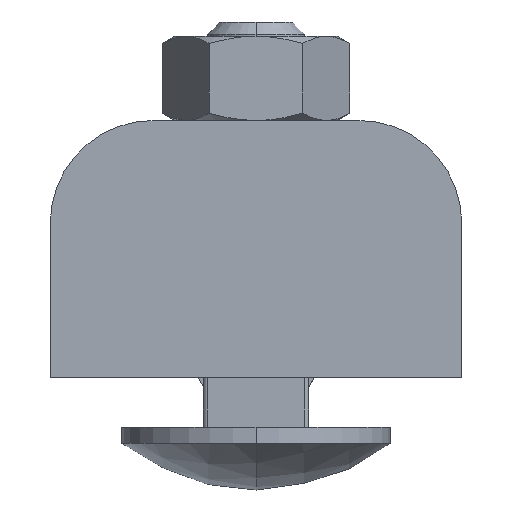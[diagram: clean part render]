
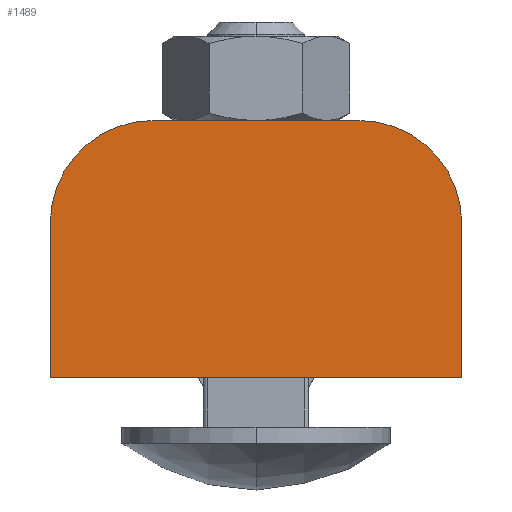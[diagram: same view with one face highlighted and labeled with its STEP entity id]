
A CAD part, front view. The second image highlights one B-rep face of the part: STEP entity #1489.
In plain terms, the highlighted planar face has unit normal (0, -1, 0).
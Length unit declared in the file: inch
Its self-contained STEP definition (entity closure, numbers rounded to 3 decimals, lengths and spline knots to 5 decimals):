
#1173=DIRECTION('',(0.,0.,-1.));
#1174=VECTOR('',#1173,0.375);
#1175=CARTESIAN_POINT('',(-0.5,0.,0.));
#1176=LINE('',#1175,#1174);
#1177=DIRECTION('',(-1.,0.,0.));
#1178=VECTOR('',#1177,1.);
#1179=CARTESIAN_POINT('',(0.5,0.,0.));
#1180=LINE('',#1179,#1178);
#1181=DIRECTION('',(0.,0.,1.));
#1182=VECTOR('',#1181,0.375);
#1183=CARTESIAN_POINT('',(0.5,0.,-0.375));
#1184=LINE('',#1183,#1182);
#1185=CARTESIAN_POINT('',(0.25,0.,-0.375));
#1186=DIRECTION('',(0.,-1.,0.));
#1187=DIRECTION('',(0.,0.,-1.));
#1188=AXIS2_PLACEMENT_3D('',#1185,#1186,#1187);
#1190=DIRECTION('',(1.,0.,0.));
#1191=VECTOR('',#1190,0.5);
#1192=CARTESIAN_POINT('',(-0.25,0.,-0.625));
#1193=LINE('',#1192,#1191);
#1194=CARTESIAN_POINT('',(-0.25,0.,-0.375));
#1195=DIRECTION('',(0.,-1.,0.));
#1196=DIRECTION('',(-1.,0.,0.));
#1197=AXIS2_PLACEMENT_3D('',#1194,#1195,#1196);
#1337=CARTESIAN_POINT('',(0.5,0.,-0.375));
#1338=CARTESIAN_POINT('',(0.5,0.,0.));
#1339=VERTEX_POINT('',#1337);
#1340=VERTEX_POINT('',#1338);
#1341=CARTESIAN_POINT('',(0.25,0.,-0.625));
#1342=VERTEX_POINT('',#1341);
#1367=CARTESIAN_POINT('',(-0.25,0.,-0.625));
#1368=VERTEX_POINT('',#1367);
#1379=CARTESIAN_POINT('',(-0.5,0.,0.));
#1380=CARTESIAN_POINT('',(-0.5,0.,-0.375));
#1381=VERTEX_POINT('',#1379);
#1382=VERTEX_POINT('',#1380);
#1472=CARTESIAN_POINT('',(0.,0.,0.));
#1473=DIRECTION('',(0.,-1.,0.));
#1474=DIRECTION('',(0.,0.,-1.));
#1475=AXIS2_PLACEMENT_3D('',#1472,#1473,#1474);
#1476=PLANE('',#1475);
#1478=ORIENTED_EDGE('',*,*,#1477,.F.);
#1479=ORIENTED_EDGE('',*,*,#1436,.F.);
#1480=ORIENTED_EDGE('',*,*,#1454,.F.);
#1482=ORIENTED_EDGE('',*,*,#1481,.F.);
#1484=ORIENTED_EDGE('',*,*,#1483,.F.);
#1486=ORIENTED_EDGE('',*,*,#1485,.F.);
#1487=EDGE_LOOP('',(#1478,#1479,#1480,#1482,#1484,#1486));
#1488=FACE_OUTER_BOUND('',#1487,.F.);
#1189=CIRCLE('',#1188,0.25);
#1198=CIRCLE('',#1197,0.25);
#1436=EDGE_CURVE('',#1340,#1381,#1180,.T.);
#1454=EDGE_CURVE('',#1339,#1340,#1184,.T.);
#1477=EDGE_CURVE('',#1381,#1382,#1176,.T.);
#1481=EDGE_CURVE('',#1342,#1339,#1189,.T.);
#1483=EDGE_CURVE('',#1368,#1342,#1193,.T.);
#1485=EDGE_CURVE('',#1382,#1368,#1198,.T.);
#1489=ADVANCED_FACE('',(#1488),#1476,.T.);
